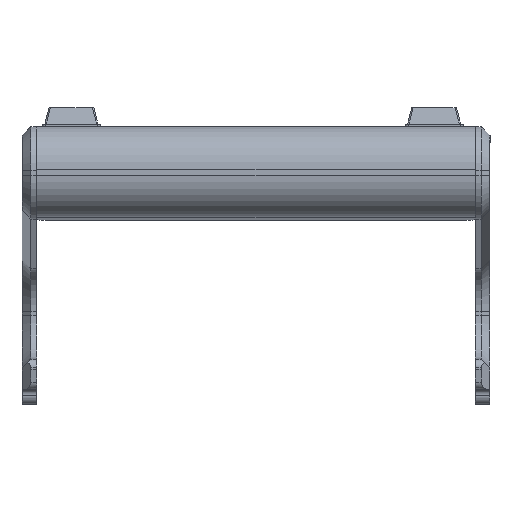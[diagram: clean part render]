
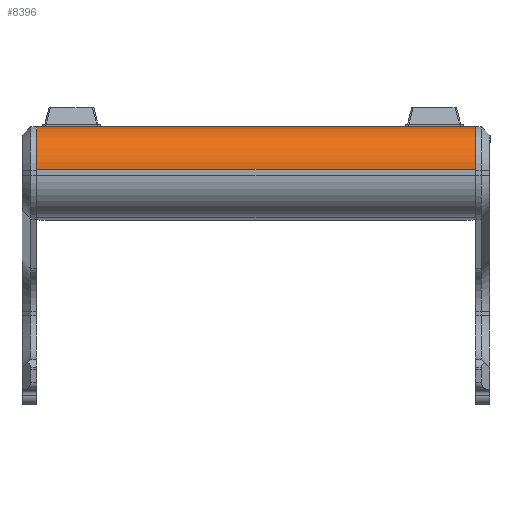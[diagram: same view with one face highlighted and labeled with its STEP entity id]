
A CAD part, front view. The second image highlights one B-rep face of the part: STEP entity #8396.
In plain terms, the highlighted cylindrical face has radius 14.5 mm (diameter 29 mm), a partial arc.
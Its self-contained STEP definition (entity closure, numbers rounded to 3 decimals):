
#65 = CARTESIAN_POINT ( 'NONE',  ( 75., -109.5, -14.5 ) ) ;
#151 = EDGE_CURVE ( 'NONE', #3535, #4622, #3471, .T. ) ;
#155 = ORIENTED_EDGE ( 'NONE', *, *, #4112, .T. ) ;
#246 = DIRECTION ( 'NONE',  ( 1., 0., 0. ) ) ;
#502 = VERTEX_POINT ( 'NONE', #65 ) ;
#1052 = CARTESIAN_POINT ( 'NONE',  ( -75., -95., -14.5 ) ) ;
#1347 = ORIENTED_EDGE ( 'NONE', *, *, #151, .F. ) ;
#2375 = DIRECTION ( 'NONE',  ( -1., 0., 0. ) ) ;
#2385 = CARTESIAN_POINT ( 'NONE',  ( 75., -95., 0. ) ) ;
#2918 = DIRECTION ( 'NONE',  ( 1., 0., 0. ) ) ;
#2931 = VECTOR ( 'NONE', #246, 1000. ) ;
#3471 = LINE ( 'NONE', #7339, #2931 ) ;
#3535 = VERTEX_POINT ( 'NONE', #5986 ) ;
#3697 = CARTESIAN_POINT ( 'NONE',  ( 75., -109.5, -14.5 ) ) ;
#3806 = CIRCLE ( 'NONE', #7178, 14.5 ) ;
#3935 = VECTOR ( 'NONE', #5125, 1000. ) ;
#4112 = EDGE_CURVE ( 'NONE', #7072, #502, #4155, .T. ) ;
#4123 = EDGE_CURVE ( 'NONE', #7072, #3535, #5820, .T. ) ;
#4155 = LINE ( 'NONE', #3697, #3935 ) ;
#4314 = CARTESIAN_POINT ( 'NONE',  ( 75., -95., -14.5 ) ) ;
#4530 = FACE_OUTER_BOUND ( 'NONE', #7768, .T. ) ;
#4622 = VERTEX_POINT ( 'NONE', #2385 ) ;
#4956 = AXIS2_PLACEMENT_3D ( 'NONE', #1052, #2375, #5312 ) ;
#5072 = AXIS2_PLACEMENT_3D ( 'NONE', #7316, #8752, #5321 ) ;
#5125 = DIRECTION ( 'NONE',  ( 1., 0., 0. ) ) ;
#5312 = DIRECTION ( 'NONE',  ( 0., 0., 1. ) ) ;
#5321 = DIRECTION ( 'NONE',  ( 0., -1., 0. ) ) ;
#5579 = ORIENTED_EDGE ( 'NONE', *, *, #7760, .F. ) ;
#5820 = CIRCLE ( 'NONE', #4956, 14.5 ) ;
#5986 = CARTESIAN_POINT ( 'NONE',  ( -75., -95., 0. ) ) ;
#6194 = CYLINDRICAL_SURFACE ( 'NONE', #5072, 14.5 ) ;
#6495 = DIRECTION ( 'NONE',  ( 0., 0., 1. ) ) ;
#6779 = ORIENTED_EDGE ( 'NONE', *, *, #4123, .F. ) ;
#7072 = VERTEX_POINT ( 'NONE', #7879 ) ;
#7178 = AXIS2_PLACEMENT_3D ( 'NONE', #4314, #2918, #6495 ) ;
#7316 = CARTESIAN_POINT ( 'NONE',  ( -75., -95., -14.5 ) ) ;
#7339 = CARTESIAN_POINT ( 'NONE',  ( -75., -95., 0. ) ) ;
#7760 = EDGE_CURVE ( 'NONE', #4622, #502, #3806, .T. ) ;
#7768 = EDGE_LOOP ( 'NONE', ( #1347, #6779, #155, #5579 ) ) ;
#7879 = CARTESIAN_POINT ( 'NONE',  ( -75., -109.5, -14.5 ) ) ;
#8396 = ADVANCED_FACE ( 'NONE', ( #4530 ), #6194, .T. ) ;
#8752 = DIRECTION ( 'NONE',  ( -1., 0., 0. ) ) ;
